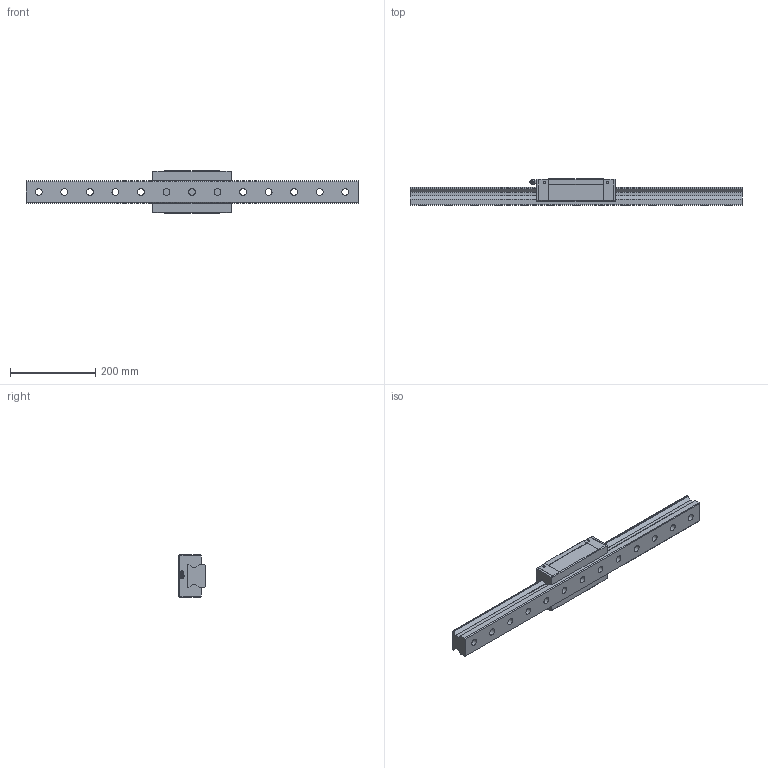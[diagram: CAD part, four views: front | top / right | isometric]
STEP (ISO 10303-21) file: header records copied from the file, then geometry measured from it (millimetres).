
FILE_DESCRIPTION(/* description */ ('STEP AP203'),/* implementation_level */ '2;1');
FILE_NAME(/* name */ 'SRN55R1SS-780L_G30_0_B-PT18_297-5_0_0_0_1',/* time_stamp */ '2024-05-23T10:56:41+02:00',/* author */ ('License CC BY-ND 4.0'),/* organization */ ('CADENAS'),/* preprocessor_version */ 'ST-DEVELOPER v19.3',/* originating_system */ 'PARTsolutions',/* authorisation */ ' ');
FILE_SCHEMA (('CONFIG_CONTROL_DESIGN'));
Length unit declared in the file: millimetre
Products named in the file (4): SRN55R1SS-780L_G30_0_B-PT18_297-5_0_0_0_1; SRG55R78030 Track; SRN55RSSB-PT1/81 Slide25-55; B-PT1/8-SRN_grease_nipple_joint
Assembly tree (3 placements, depth 2):
  SRN55R1SS-780L_G30_0_B-PT18_297-5_0_0_0_1
    SRG55R78030 Track
    SRN55RSSB-PT1/81 Slide25-55
    B-PT1/8-SRN_grease_nipple_joint
Bounding box: 780 x 63 x 100 mm (x, y, z)
Volume: 2088845.4 mm3; surface area: 271881.4 mm2
Topology: 3 solids, 3 shells, 206 faces, 520 edges, 339 vertices
Faces by surface type: plane 128, cylinder 49, cone 24, torus 3, sphere 2
Full cylindrical faces by diameter (mm): 5.2 x4, 9.6 x1, 10.106 x6, 16 x13, 23 x13
Entity records: 5938 total; most frequent: CARTESIAN_POINT 1109, DIRECTION 956, ORIENTED_EDGE 878, EDGE_CURVE 439, AXIS2_PLACEMENT_3D 334, VERTEX_POINT 332, FACE_BOUND 325, EDGE_LOOP 317
